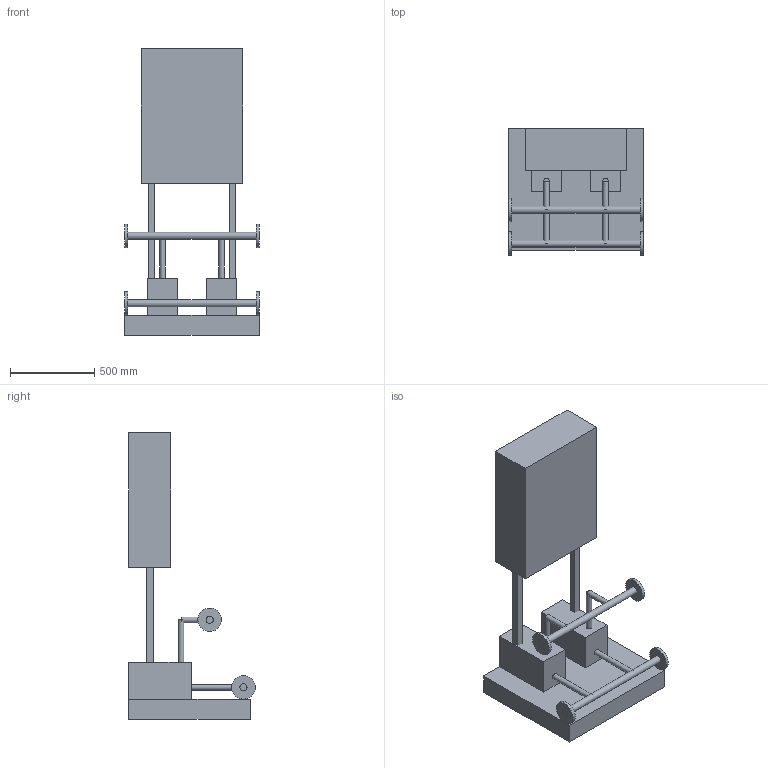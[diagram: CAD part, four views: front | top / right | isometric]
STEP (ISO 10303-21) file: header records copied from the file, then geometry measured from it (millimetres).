
FILE_DESCRIPTION(('Open CASCADE Model'),'2;1');
FILE_NAME('Open CASCADE Shape Model','2026-10-21T15:05:56',('Author'),( 'Open CASCADE'),'Open CASCADE STEP processor 7.9','Open CASCADE 7.9' ,'Unknown');
FILE_SCHEMA(('AUTOMOTIVE_DESIGN { 1 0 10303 214 1 1 1 1 }'));
Length unit declared in the file: millimetre
Products named in the file (19): Ð£ÐÐ_ÐÐ ÐÐÐÐ¬_2_CM_4_3; 000_Ð Ð°Ð¼Ð° (Ð¾ÑÐ½Ð¾Ð²Ð°Ð½Ð¸Ðµ); 001_ÐÐ¾Ð»Ð»ÐµÐºÑÐ¾Ñ 
Ð²ÑÐ°ÑÑÐ²Ð°ÑÑÐ¸Ð¹; 002_ÐÐ¾Ð»Ð»ÐµÐºÑÐ¾Ñ 
Ð²ÑÐ°ÑÑÐ²Ð°ÑÑÐ¸Ð¹ â 
ÑÐ»Ð°Ð½ÐµÑ ÐÑ32; 003_ÐÐ¾Ð»Ð»ÐµÐºÑÐ¾Ñ 
Ð²ÑÐ°ÑÑÐ²Ð°ÑÑÐ¸Ð¹ â 
ÑÐ»Ð°Ð½ÐµÑ ÐÑ32; 004_ÐÐ¾Ð»Ð»ÐµÐºÑÐ¾Ñ 
Ð½Ð°Ð¿Ð¾ÑÐ½ÑÐ¹; 005_ÐÐ¾Ð»Ð»ÐµÐºÑÐ¾Ñ 
Ð½Ð°Ð¿Ð¾ÑÐ½ÑÐ¹ â ÑÐ»Ð°Ð½ÐµÑ 
ÐÑ32; 006_ÐÐ¾Ð»Ð»ÐµÐºÑÐ¾Ñ 
Ð½Ð°Ð¿Ð¾ÑÐ½ÑÐ¹ â ÑÐ»Ð°Ð½ÐµÑ 
ÐÑ32; 007_ÐÐ°ÑÐ¾Ñ 1 CM 4-3; 008_ÐÐ°ÑÐ¾Ñ 1 â Ð²ÑÐ¾Ð´ ÐÑ25; 009_ÐÐ°ÑÐ¾Ñ 1 â Ð²ÑÑÐ¾Ð´ ÐÑ25; 010_ÐÐ°ÑÐ¾Ñ 1 â Ð¾ÑÐ²Ð¾Ð´ ÐÑ25; 011_ÐÐ°ÑÐ¾Ñ 2 CM 4-3; 012_ÐÐ°ÑÐ¾Ñ 2 â Ð²ÑÐ¾Ð´ ÐÑ25; 013_ÐÐ°ÑÐ¾Ñ 2 â Ð²ÑÑÐ¾Ð´ ÐÑ25; 014_ÐÐ°ÑÐ¾Ñ 2 â Ð¾ÑÐ²Ð¾Ð´ ÐÑ25; 015_Ð¨ÐºÐ°Ñ ÑÐ¿ÑÐ°Ð²Ð»ÐµÐ½Ð¸Ñ; 016_Ð¡ÑÐ¾Ð¹ÐºÐ° ÑÐºÐ°ÑÐ°; 017_Ð¡ÑÐ¾Ð¹ÐºÐ° ÑÐºÐ°ÑÐ°
Assembly tree (18 placements, depth 2):
  Ð£ÐÐ_ÐÐ ÐÐÐÐ¬_2_CM_4_3
    000_Ð Ð°Ð¼Ð° (Ð¾ÑÐ½Ð¾Ð²Ð°Ð½Ð¸Ðµ)
    001_ÐÐ¾Ð»Ð»ÐµÐºÑÐ¾Ñ 
Ð²ÑÐ°ÑÑÐ²Ð°ÑÑÐ¸Ð¹
    002_ÐÐ¾Ð»Ð»ÐµÐºÑÐ¾Ñ 
Ð²ÑÐ°ÑÑÐ²Ð°ÑÑÐ¸Ð¹ â 
ÑÐ»Ð°Ð½ÐµÑ ÐÑ32
    003_ÐÐ¾Ð»Ð»ÐµÐºÑÐ¾Ñ 
Ð²ÑÐ°ÑÑÐ²Ð°ÑÑÐ¸Ð¹ â 
ÑÐ»Ð°Ð½ÐµÑ ÐÑ32
    004_ÐÐ¾Ð»Ð»ÐµÐºÑÐ¾Ñ 
Ð½Ð°Ð¿Ð¾ÑÐ½ÑÐ¹
    005_ÐÐ¾Ð»Ð»ÐµÐºÑÐ¾Ñ 
Ð½Ð°Ð¿Ð¾ÑÐ½ÑÐ¹ â ÑÐ»Ð°Ð½ÐµÑ 
ÐÑ32
    006_ÐÐ¾Ð»Ð»ÐµÐºÑÐ¾Ñ 
Ð½Ð°Ð¿Ð¾ÑÐ½ÑÐ¹ â ÑÐ»Ð°Ð½ÐµÑ 
ÐÑ32
    007_ÐÐ°ÑÐ¾Ñ 1 CM 4-3
    008_ÐÐ°ÑÐ¾Ñ 1 â Ð²ÑÐ¾Ð´ ÐÑ25
    009_ÐÐ°ÑÐ¾Ñ 1 â Ð²ÑÑÐ¾Ð´ ÐÑ25
    010_ÐÐ°ÑÐ¾Ñ 1 â Ð¾ÑÐ²Ð¾Ð´ ÐÑ25
    011_ÐÐ°ÑÐ¾Ñ 2 CM 4-3
    012_ÐÐ°ÑÐ¾Ñ 2 â Ð²ÑÐ¾Ð´ ÐÑ25
    013_ÐÐ°ÑÐ¾Ñ 2 â Ð²ÑÑÐ¾Ð´ ÐÑ25
    014_ÐÐ°ÑÐ¾Ñ 2 â Ð¾ÑÐ²Ð¾Ð´ ÐÑ25
    015_Ð¨ÐºÐ°Ñ ÑÐ¿ÑÐ°Ð²Ð»ÐµÐ½Ð¸Ñ
    016_Ð¡ÑÐ¾Ð¹ÐºÐ° ÑÐºÐ°ÑÐ°
    017_Ð¡ÑÐ¾Ð¹ÐºÐ° ÑÐºÐ°ÑÐ°
Bounding box: 800 x 750 x 1700 mm (x, y, z)
Volume: 225589760.2 mm3; surface area: 4722067.4 mm2
Topology: 18 solids, 18 shells, 72 faces, 108 edges, 72 vertices
Faces by surface type: plane 60, cylinder 12
Full cylindrical faces by diameter (mm): 33.7 x6, 42.4 x2, 140 x4
Entity records: 3429 total; most frequent: DIRECTION 530, CARTESIAN_POINT 487, LINE 276, VECTOR 276, ORIENTED_EDGE 216, PCURVE 216, DEFINITIONAL_REPRESENTATION 216, AXIS2_PLACEMENT_3D 115
